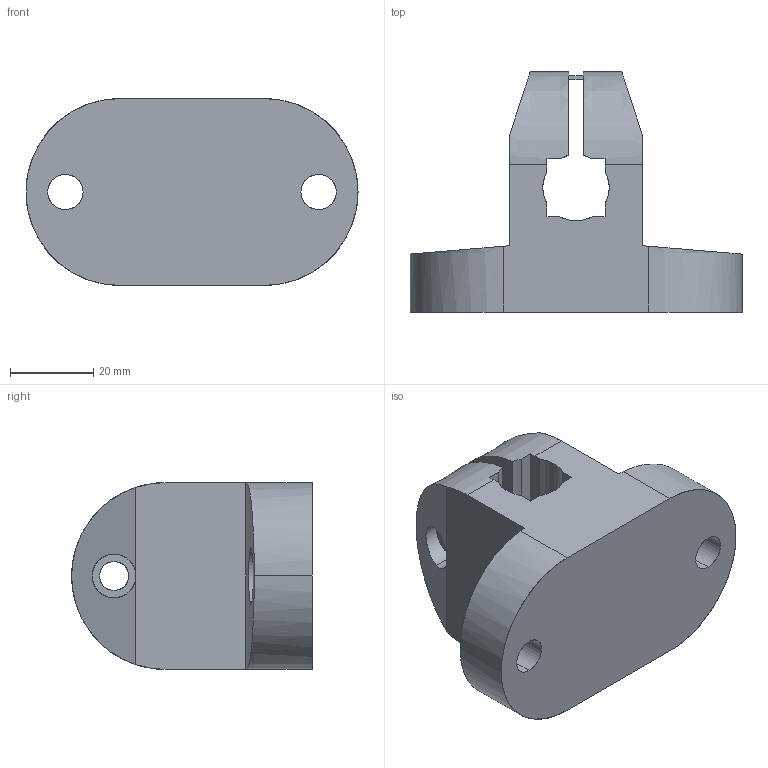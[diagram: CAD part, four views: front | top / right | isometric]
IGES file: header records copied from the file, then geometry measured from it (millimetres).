
Start section: SolidWorks IGES file using analytic representation for surfaces
Global section: file name: C:\Documents and Settings\ARGE\Desktop\yeni katalog tolgay düzenli\B kataloðu\FOTOSEL GÖVDE BAÐLAMA MENGENESÝ(AÐIR TÝP)\export\215 252 016.IGS; native system: SolidWorks 2006 by SolidWorks Corporation; preprocessor: SolidWorks 2006 by SolidWorks Corporation; author: ARGE2; date: 060911.183248; units: millimetre
Bounding box: 80 x 58 x 45 mm (x, y, z)
Surface area: 18987.4 mm2 (no closed solid volume)
Topology: 0 solids, 0 shells, 57 faces, 1186 edges, 1184 vertices
Faces by surface type: revolution 30, bspline 27
